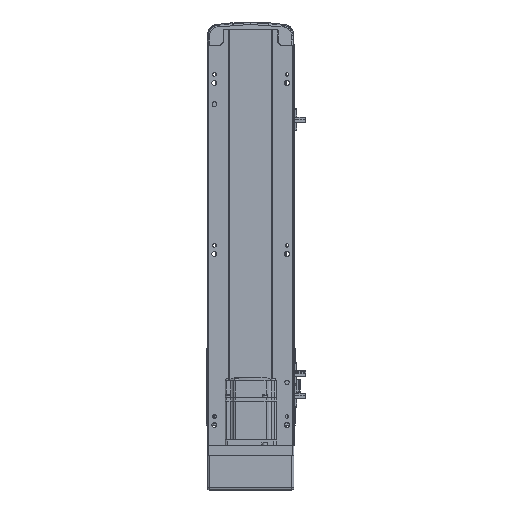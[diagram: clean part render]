
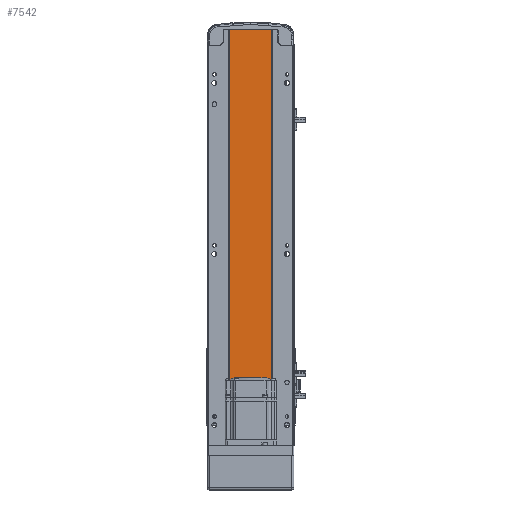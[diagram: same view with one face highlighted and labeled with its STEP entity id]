
A CAD part, front view. The second image highlights one B-rep face of the part: STEP entity #7542.
In plain terms, the highlighted planar face has unit normal (0, -1, 0).
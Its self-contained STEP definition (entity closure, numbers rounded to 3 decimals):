
#1478 = VECTOR ( 'NONE', #7062, 1000. ) ;
#2198 = AXIS2_PLACEMENT_3D ( 'NONE', #14187, #40520, #8972 ) ;
#2257 = CARTESIAN_POINT ( 'NONE',  ( 24.5, 2., 487. ) ) ;
#4322 = CARTESIAN_POINT ( 'NONE',  ( 24.5, 2., 0. ) ) ;
#4530 = CARTESIAN_POINT ( 'NONE',  ( -24.5, 2., 0. ) ) ;
#6173 = VERTEX_POINT ( 'NONE', #4322 ) ;
#6220 = EDGE_CURVE ( 'NONE', #10852, #6173, #25700, .T. ) ;
#6989 = ORIENTED_EDGE ( 'NONE', *, *, #34292, .F. ) ;
#7062 = DIRECTION ( 'NONE',  ( 0., 0., -1. ) ) ;
#7542 = ADVANCED_FACE ( 'NONE', ( #28370 ), #54768, .F. ) ;
#8972 = DIRECTION ( 'NONE',  ( 0., 0., 1. ) ) ;
#10852 = VERTEX_POINT ( 'NONE', #4530 ) ;
#12695 = LINE ( 'NONE', #55249, #31829 ) ;
#14187 = CARTESIAN_POINT ( 'NONE',  ( 0., 2., 487. ) ) ;
#14437 = DIRECTION ( 'NONE',  ( 1., 0., 0. ) ) ;
#17674 = CARTESIAN_POINT ( 'NONE',  ( 0., 2., 0. ) ) ;
#19100 = CARTESIAN_POINT ( 'NONE',  ( -24.5, 2., 487. ) ) ;
#20434 = EDGE_LOOP ( 'NONE', ( #21212, #28008, #6989, #45948 ) ) ;
#21129 = EDGE_CURVE ( 'NONE', #39945, #6173, #28493, .T. ) ;
#21212 = ORIENTED_EDGE ( 'NONE', *, *, #6220, .T. ) ;
#24125 = VECTOR ( 'NONE', #52184, 1000. ) ;
#25408 = EDGE_CURVE ( 'NONE', #50226, #10852, #48874, .T. ) ;
#25700 = LINE ( 'NONE', #17674, #43354 ) ;
#26186 = DIRECTION ( 'NONE',  ( 1., 0., 0. ) ) ;
#28008 = ORIENTED_EDGE ( 'NONE', *, *, #21129, .F. ) ;
#28370 = FACE_OUTER_BOUND ( 'NONE', #20434, .T. ) ;
#28493 = LINE ( 'NONE', #52441, #1478 ) ;
#31829 = VECTOR ( 'NONE', #14437, 1000. ) ;
#34292 = EDGE_CURVE ( 'NONE', #50226, #39945, #12695, .T. ) ;
#38751 = CARTESIAN_POINT ( 'NONE',  ( -24.5, 2., 487. ) ) ;
#39945 = VERTEX_POINT ( 'NONE', #2257 ) ;
#40520 = DIRECTION ( 'NONE',  ( 0., 1., 0. ) ) ;
#43354 = VECTOR ( 'NONE', #26186, 1000. ) ;
#45948 = ORIENTED_EDGE ( 'NONE', *, *, #25408, .T. ) ;
#48874 = LINE ( 'NONE', #38751, #24125 ) ;
#50226 = VERTEX_POINT ( 'NONE', #19100 ) ;
#52184 = DIRECTION ( 'NONE',  ( 0., 0., -1. ) ) ;
#52441 = CARTESIAN_POINT ( 'NONE',  ( 24.5, 2., 487. ) ) ;
#54768 = PLANE ( 'NONE',  #2198 ) ;
#55249 = CARTESIAN_POINT ( 'NONE',  ( -24.5, 2., 487. ) ) ;
